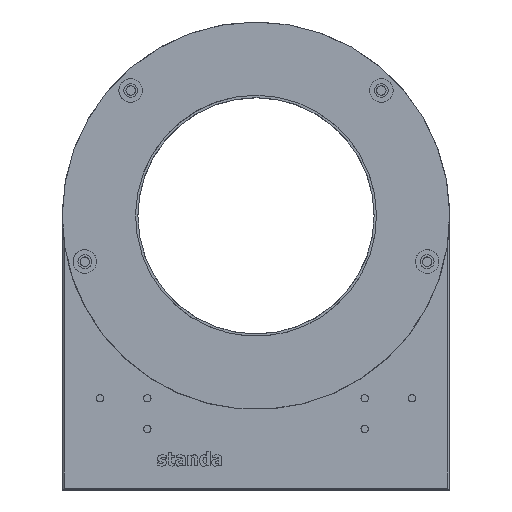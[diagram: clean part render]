
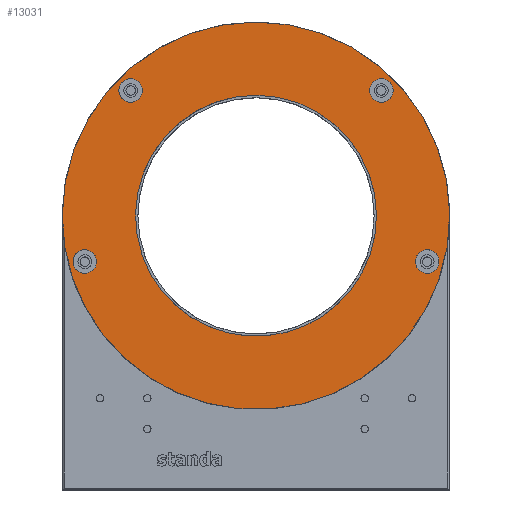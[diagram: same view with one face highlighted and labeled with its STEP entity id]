
A CAD part, top view. The second image highlights one B-rep face of the part: STEP entity #13031.
In plain terms, the highlighted planar face has unit normal (0, 0, 1).
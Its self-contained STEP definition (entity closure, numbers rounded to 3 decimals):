
#2843=PLANE($,#14183);
#3114=FACE_BOUND($,#4766,.T.);
#3115=FACE_BOUND($,#4767,.T.);
#3116=FACE_BOUND($,#4768,.T.);
#3117=FACE_BOUND($,#4769,.T.);
#3118=FACE_BOUND($,#4770,.T.);
#3119=FACE_BOUND($,#4771,.T.);
#4766=EDGE_LOOP($,(#11836));
#4767=EDGE_LOOP($,(#11837));
#4768=EDGE_LOOP($,(#11838));
#4769=EDGE_LOOP($,(#11839));
#4770=EDGE_LOOP($,(#11840));
#4771=EDGE_LOOP($,(#11841));
#5396=CIRCLE($,#14184,2.5);
#5397=CIRCLE($,#14185,2.5);
#5398=CIRCLE($,#14186,2.5);
#5399=CIRCLE($,#14187,2.5);
#5400=CIRCLE($,#14188,25.5);
#5401=CIRCLE($,#14189,41.);
#6643=VERTEX_POINT($,#23239);
#6644=VERTEX_POINT($,#23241);
#6645=VERTEX_POINT($,#23243);
#6646=VERTEX_POINT($,#23245);
#6647=VERTEX_POINT($,#23247);
#6648=VERTEX_POINT($,#23249);
#8419=EDGE_CURVE($,#6643,#6643,#5396,.T.);
#8420=EDGE_CURVE($,#6644,#6644,#5397,.T.);
#8421=EDGE_CURVE($,#6645,#6645,#5398,.T.);
#8422=EDGE_CURVE($,#6646,#6646,#5399,.T.);
#8423=EDGE_CURVE($,#6647,#6647,#5400,.T.);
#8424=EDGE_CURVE($,#6648,#6648,#5401,.T.);
#11836=ORIENTED_EDGE($,*,*,#8419,.T.);
#11837=ORIENTED_EDGE($,*,*,#8420,.T.);
#11838=ORIENTED_EDGE($,*,*,#8421,.T.);
#11839=ORIENTED_EDGE($,*,*,#8422,.T.);
#11840=ORIENTED_EDGE($,*,*,#8423,.T.);
#11841=ORIENTED_EDGE($,*,*,#8424,.T.);
#13031=ADVANCED_FACE($,(#3114,#3115,#3116,#3117,#3118,#3119),#2843,.T.);
#14183=AXIS2_PLACEMENT_3D($,#23238,#17392,#17393);
#14184=AXIS2_PLACEMENT_3D($,#23240,#17394,#17395);
#14185=AXIS2_PLACEMENT_3D($,#23242,#17396,#17397);
#14186=AXIS2_PLACEMENT_3D($,#23244,#17398,#17399);
#14187=AXIS2_PLACEMENT_3D($,#23246,#17400,#17401);
#14188=AXIS2_PLACEMENT_3D($,#23248,#17402,#17403);
#14189=AXIS2_PLACEMENT_3D($,#23250,#17404,#17405);
#17392=DIRECTION('center_axis',(0.,0.,1.));
#17393=DIRECTION('ref_axis',(1.,0.,0.));
#17394=DIRECTION('center_axis',(0.,0.,-1.));
#17395=DIRECTION('ref_axis',(1.,0.,0.));
#17396=DIRECTION('center_axis',(0.,0.,-1.));
#17397=DIRECTION('ref_axis',(1.,0.,0.));
#17398=DIRECTION('center_axis',(0.,0.,-1.));
#17399=DIRECTION('ref_axis',(1.,0.,0.));
#17400=DIRECTION('center_axis',(0.,0.,-1.));
#17401=DIRECTION('ref_axis',(1.,0.,0.));
#17402=DIRECTION('center_axis',(0.,0.,-1.));
#17403=DIRECTION('ref_axis',(-1.,0.,0.));
#17404=DIRECTION('center_axis',(0.,0.,1.));
#17405=DIRECTION('ref_axis',(1.,0.,0.));
#23238=CARTESIAN_POINT('Origin',(28.369,41.744,26.));
#23239=CARTESIAN_POINT('',(67.091,32.039,26.));
#23240=CARTESIAN_POINT('Origin',(64.591,32.039,26.));
#23241=CARTESIAN_POINT('',(57.386,68.261,26.));
#23242=CARTESIAN_POINT('Origin',(54.886,68.261,26.));
#23243=CARTESIAN_POINT('',(4.353,68.261,26.));
#23244=CARTESIAN_POINT('Origin',(1.853,68.261,26.));
#23245=CARTESIAN_POINT('',(-5.353,32.039,26.));
#23246=CARTESIAN_POINT('Origin',(-7.853,32.039,26.));
#23247=CARTESIAN_POINT('',(53.869,41.744,26.));
#23248=CARTESIAN_POINT('Origin',(28.369,41.744,26.));
#23249=CARTESIAN_POINT('',(-12.631,41.744,26.));
#23250=CARTESIAN_POINT('Origin',(28.369,41.744,26.));
